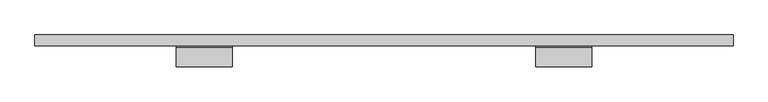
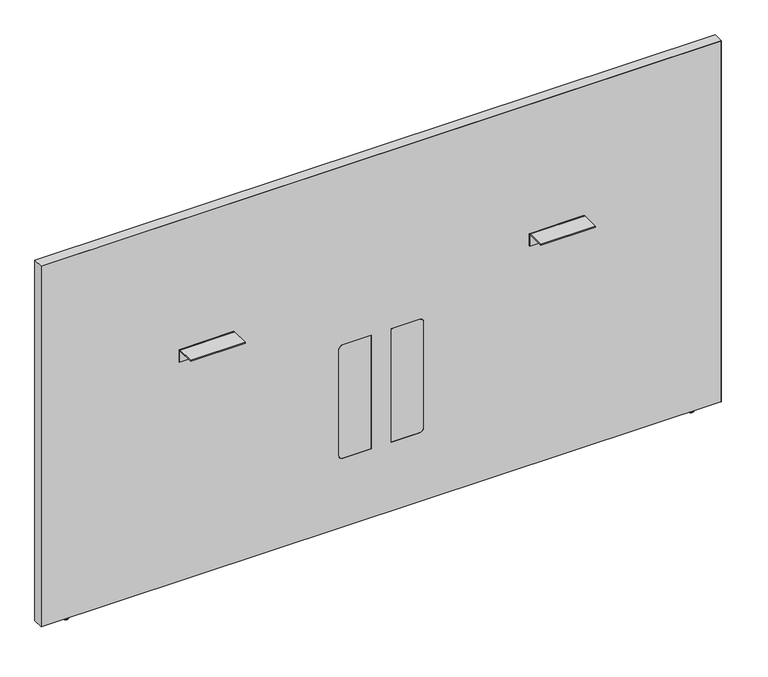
"""IFC4 building model written with IfcOpenShell, lengths in millimetres: furniture geometry, Steelcase - Answer Solution - Boundary Screen - Straight - Spanning : 42H x 75W."""

from ifc_helpers import new_model, si_unit, point, frame, frame_2d, origin, place, context, project, spatial, polyline, circle_curve, ellipse_curve, trimmed, segment, composite_curve, outline, extrude, source, transform, mapped, element, save
from ifc_brep_helpers import plane_surface, cylinder_surface, revolved_surface, advanced_brep


def furniture_27a1686d(model_context):
    return source(origin(), model_context, "Body", "SolidModel", [
        advanced_brep(
        [(-645.4902705, -14.8449166, 9.9059849), (-645.4902705, -5.9309607, 9.9059849), (-645.4902705, -23.7588726, 9.9059849), (-645.4902705, -5.9309607, 2.9673238), (-645.4902705, -23.7588726, 2.9673238), (-645.4902705, -6.8982978, 2.9673238), (-645.4902705, -22.7915354, 2.9673238), (-645.4902705, -6.8982978, 1.6569081), (-645.4902705, -22.7915354, 1.6569081), (-645.4902705, -8.5552059, 0.0), (-645.4902705, -21.1346274, 0.0), (-645.4902705, -14.8449166, 0.0)],
        [
            (0, 1),
            (1, 2, circle_curve(frame((-645.4902705, -14.8449166, 9.9059849), z_axis=(0.0, 0.0, 1.0), x_axis=(0.0, 1.0, 0.0)), 8.913956)),
            (2, 0),
            (2, 1, circle_curve(frame((-645.4902705, -14.8449166, 9.9059849), z_axis=(0.0, 0.0, 1.0), x_axis=(0.0, 1.0, 0.0)), 8.913956)),
            (1, 3),
            (3, 4, circle_curve(frame((-645.4902705, -14.8449166, 2.9673238), z_axis=(0.0, 0.0, 1.0), x_axis=(0.0, 1.0, 0.0)), 8.913956)),
            (4, 2),
            (4, 3, circle_curve(frame((-645.4902705, -14.8449166, 2.9673238), z_axis=(0.0, 0.0, 1.0), x_axis=(0.0, 1.0, 0.0)), 8.913956)),
            (3, 5),
            (5, 6, circle_curve(frame((-645.4902705, -14.8449166, 2.9673238), z_axis=(0.0, 0.0, 1.0), x_axis=(0.0, 1.0, 0.0)), 7.9466188)),
            (6, 4),
            (6, 5, circle_curve(frame((-645.4902705, -14.8449166, 2.9673238), z_axis=(0.0, 0.0, 1.0), x_axis=(0.0, 1.0, 0.0)), 7.9466188)),
            (5, 7),
            (7, 8, circle_curve(frame((-645.4902705, -14.8449166, 1.6569081), z_axis=(0.0, 0.0, 1.0), x_axis=(0.0, 1.0, 0.0)), 7.9466188)),
            (8, 6),
            (8, 7, circle_curve(frame((-645.4902705, -14.8449166, 1.6569081), z_axis=(0.0, 0.0, 1.0), x_axis=(0.0, 1.0, 0.0)), 7.9466188)),
            (7, 9, circle_curve(frame((-645.4902705, -8.5552059, 1.6569081), z_axis=(-1.0, 0.0, 0.0), x_axis=(0.0, 1.0, 0.0)), 1.6569081)),
            (9, 10, circle_curve(frame((-645.4902705, -14.8449166, 0.0), z_axis=(0.0, 0.0, 1.0), x_axis=(0.0, 1.0, 0.0)), 6.2897107)),
            (10, 8, circle_curve(frame((-645.4902705, -21.1346274, 1.6569081), z_axis=(-1.0, 0.0, 0.0), x_axis=(0.0, -1.0, 0.0)), 1.6569081)),
            (10, 9, circle_curve(frame((-645.4902705, -14.8449166, 0.0), z_axis=(0.0, 0.0, 1.0), x_axis=(0.0, 1.0, 0.0)), 6.2897107)),
            (9, 11),
            (11, 10),
        ],
        [
            plane_surface(frame((-645.4902705, -14.8449166, 9.9059849), z_axis=(0.0, 0.0, 1.0), x_axis=(0.0, 1.0, 0.0))),
            cylinder_surface(frame((-645.4902705, -14.8449166, 9.9059849), z_axis=(0.0, 0.0, 1.0), x_axis=(0.0, 1.0, 0.0)), 8.913956),
            plane_surface(frame((-645.4902705, -14.8449166, 2.9673238), z_axis=(0.0, 0.0, -1.0), x_axis=(0.0, 1.0, 0.0))),
            cylinder_surface(frame((-645.4902705, -14.8449166, 9.9059849), z_axis=(0.0, 0.0, 1.0), x_axis=(0.0, 1.0, 0.0)), 7.9466188),
            revolved_surface(trimmed(ellipse_curve(frame((-645.4902705, -8.5552059, 1.6569081), z_axis=(1.0, 0.0, 0.0), x_axis=(0.0, 1.0, 0.0)), 1.6569081, 1.6569081), [point((-645.4902705, -8.5552059, 0.0))], [point((-645.4902705, -6.8982978, 1.6569081))], True, "CARTESIAN"), (-645.4902705, -14.8449166, 9.9059849), (0.0, 0.0, 1.0)),
            plane_surface(frame((-645.4902705, -14.8449166, 0.0), z_axis=(0.0, 0.0, -1.0), x_axis=(0.0, 1.0, 0.0))),
        ],
        [
            (0, [[1, 2, 3]]),
            (0, [[-3, 4, -1]]),
            (1, [[-2, 5, 6, 7]]),
            (1, [[-4, -7, 8, -5]]),
            (2, [[-6, 9, 10, 11]]),
            (2, [[-8, -11, 12, -9]]),
            (3, [[-10, 13, 14, 15]]),
            (3, [[-12, -15, 16, -13]]),
            (4, [[-14, 17, 18, 19]]),
            (4, [[-16, -19, 20, -17]]),
            (5, [[-18, 21, 22]]),
            (5, [[-20, -22, -21]]),
        ],
    ),
        extrude(outline(composite_curve([segment(polyline([(-86.8398151, 696.4680019), (-86.8398151, 698.5), (-34.9450855, 698.5)]), True, "CONTINUOUS"), segment(trimmed(circle_curve(frame_2d((-34.9450855, 693.2447477)), 5.2552523), [point((-34.9450855, 698.5))], [point((-29.6898332, 693.2447477))], False, "CARTESIAN"), True, "CONTINUOUS"), segment(polyline([(-29.6898332, 693.2447477), (-29.6898332, 660.4), (-31.7218162, 660.4), (-31.7218162, 693.0058743)]), True, "CONTINUOUS"), segment(trimmed(circle_curve(frame_2d((-35.1839438, 693.0058743)), 3.4621276), [point((-31.7218162, 693.0058743))], [point((-35.1839438, 696.4680019))], True, "CARTESIAN"), True, "CONTINUOUS"), segment(polyline([(-35.1839438, 696.4680019), (-86.8398151, 696.4680019)]), True, "CONTINUOUS")], self_intersect=False)), frame((644.0282189, 0.0, 0.0), z_axis=(1.0, 0.0, 0.0), x_axis=(0.0, 1.0, 0.0)), (0.0, 0.0, 1.0), 152.4000969),
        extrude(outline(composite_curve([segment(polyline([(-86.8398151, 696.4680019), (-86.8398151, 698.5), (-34.9450855, 698.5)]), True, "CONTINUOUS"), segment(trimmed(circle_curve(frame_2d((-34.9450855, 693.2447477)), 5.2552523), [point((-34.9450855, 698.5))], [point((-29.6898332, 693.2447477))], False, "CARTESIAN"), True, "CONTINUOUS"), segment(polyline([(-29.6898332, 693.2447477), (-29.6898332, 660.4), (-31.7218162, 660.4), (-31.7218162, 693.0058743)]), True, "CONTINUOUS"), segment(trimmed(circle_curve(frame_2d((-35.1839438, 693.0058743)), 3.4621276), [point((-31.7218162, 693.0058743))], [point((-35.1839438, 696.4680019))], True, "CARTESIAN"), True, "CONTINUOUS"), segment(polyline([(-35.1839438, 696.4680019), (-86.8398151, 696.4680019)]), True, "CONTINUOUS")], self_intersect=False)), frame((-336.7884581, 0.0, 0.0), z_axis=(1.0, 0.0, 0.0), x_axis=(0.0, 1.0, 0.0)), (0.0, 0.0, 1.0), 152.4000969),
        advanced_brep(
        [(1105.1286488, -23.7588726, 9.9059849), (1105.1286488, -5.9309607, 9.9059849), (1105.1286488, -14.8449166, 9.9059849), (1105.1286488, -23.7588726, 2.9673238), (1105.1286488, -5.9309607, 2.9673238), (1105.1286488, -22.7915354, 2.9673238), (1105.1286488, -6.8982978, 2.9673238), (1105.1286488, -22.7915354, 1.6569081), (1105.1286488, -6.8982978, 1.6569081), (1105.1286488, -21.1346274, 0.0), (1105.1286488, -8.5552059, 0.0), (1105.1286488, -14.8449166, 0.0)],
        [
            (0, 1, circle_curve(frame((1105.1286488, -14.8449166, 9.9059849), z_axis=(0.0, 0.0, 1.0), x_axis=(0.0, 1.0, 0.0)), 8.913956)),
            (1, 2),
            (2, 0),
            (1, 0, circle_curve(frame((1105.1286488, -14.8449166, 9.9059849), z_axis=(0.0, 0.0, 1.0), x_axis=(0.0, 1.0, 0.0)), 8.913956)),
            (3, 4, circle_curve(frame((1105.1286488, -14.8449166, 2.9673238), z_axis=(0.0, 0.0, 1.0), x_axis=(0.0, 1.0, 0.0)), 8.913956)),
            (4, 1),
            (0, 3),
            (4, 3, circle_curve(frame((1105.1286488, -14.8449166, 2.9673238), z_axis=(0.0, 0.0, 1.0), x_axis=(0.0, 1.0, 0.0)), 8.913956)),
            (5, 6, circle_curve(frame((1105.1286488, -14.8449166, 2.9673238), z_axis=(0.0, 0.0, 1.0), x_axis=(0.0, 1.0, 0.0)), 7.9466188)),
            (6, 4),
            (3, 5),
            (6, 5, circle_curve(frame((1105.1286488, -14.8449166, 2.9673238), z_axis=(0.0, 0.0, 1.0), x_axis=(0.0, 1.0, 0.0)), 7.9466188)),
            (7, 8, circle_curve(frame((1105.1286488, -14.8449166, 1.6569081), z_axis=(0.0, 0.0, 1.0), x_axis=(0.0, 1.0, 0.0)), 7.9466188)),
            (8, 6),
            (5, 7),
            (8, 7, circle_curve(frame((1105.1286488, -14.8449166, 1.6569081), z_axis=(0.0, 0.0, 1.0), x_axis=(0.0, 1.0, 0.0)), 7.9466188)),
            (9, 10, circle_curve(frame((1105.1286488, -14.8449166, 0.0), z_axis=(0.0, 0.0, 1.0), x_axis=(0.0, 1.0, 0.0)), 6.2897107)),
            (10, 8, circle_curve(frame((1105.1286488, -8.5552059, 1.6569081), z_axis=(1.0, 0.0, 0.0), x_axis=(0.0, 1.0, 0.0)), 1.6569081)),
            (7, 9, circle_curve(frame((1105.1286488, -21.1346274, 1.6569081), z_axis=(1.0, 0.0, 0.0), x_axis=(0.0, -1.0, 0.0)), 1.6569081)),
            (10, 9, circle_curve(frame((1105.1286488, -14.8449166, 0.0), z_axis=(0.0, 0.0, 1.0), x_axis=(0.0, 1.0, 0.0)), 6.2897107)),
            (11, 10),
            (9, 11),
        ],
        [
            plane_surface(frame((1105.1286488, -14.8449166, 9.9059849), z_axis=(0.0, 0.0, 1.0), x_axis=(0.0, 1.0, 0.0))),
            cylinder_surface(frame((1105.1286488, -14.8449166, 9.9059849), z_axis=(0.0, 0.0, -1.0), x_axis=(0.0, 1.0, 0.0)), 8.913956),
            plane_surface(frame((1105.1286488, -14.8449166, 2.9673238), z_axis=(0.0, 0.0, -1.0), x_axis=(0.0, 1.0, 0.0))),
            cylinder_surface(frame((1105.1286488, -14.8449166, 9.9059849), z_axis=(0.0, 0.0, -1.0), x_axis=(0.0, 1.0, 0.0)), 7.9466188),
            revolved_surface(trimmed(ellipse_curve(frame((1105.1286488, -8.5552059, 1.6569081), z_axis=(-1.0, 0.0, 0.0), x_axis=(0.0, 1.0, 0.0)), 1.6569081, 1.6569081), [point((1105.1286488, -6.8982978, 1.6569081))], [point((1105.1286488, -8.5552059, 0.0))], True, "CARTESIAN"), (1105.1286488, -14.8449166, 9.9059849), (0.0, 0.0, -1.0)),
            plane_surface(frame((1105.1286488, -14.8449166, 0.0), z_axis=(0.0, 0.0, -1.0), x_axis=(0.0, 1.0, 0.0))),
        ],
        [
            (0, [[1, 2, 3]]),
            (0, [[4, -3, -2]]),
            (1, [[5, 6, -1, 7]]),
            (1, [[8, -7, -4, -6]]),
            (2, [[9, 10, -5, 11]]),
            (2, [[12, -11, -8, -10]]),
            (3, [[13, 14, -9, 15]]),
            (3, [[16, -15, -12, -14]]),
            (4, [[17, 18, -13, 19]]),
            (4, [[20, -19, -16, -18]]),
            (5, [[21, -17, 22]]),
            (5, [[-22, -20, -21]]),
        ],
    ),
        advanced_brep(
        [(1181.2780168, 0.0, 1076.742118), (1181.2780168, 0.0, 9.9059849), (-721.6902221, 0.0, 9.9059849), (-721.6902221, 0.0, 1076.742118), (1181.2780168, -29.6898332, 1076.742118), (-721.6902221, -29.6898332, 1076.742118), (-721.6902221, -29.6898332, 9.9059849), (1181.2780168, -29.6898332, 9.9059849), (337.7883813, -29.6898332, 549.6162029), (347.9483813, -29.6898332, 539.4562029), (347.9483813, -29.6898332, 223.9362137), (337.7883813, -29.6898332, 213.7762137), (258.1344836, -29.6898332, 213.7762137), (258.1344836, -29.6898332, 549.6162029), (121.849997, -29.6898332, 549.6162029), (201.5038947, -29.6898332, 549.6162029), (201.5038947, -29.6898332, 213.7762137), (121.849997, -29.6898332, 213.7762137), (111.689997, -29.6898332, 223.9362137), (111.689997, -29.6898332, 539.4562029), (258.1344836, -29.0550397, 549.6162029), (337.7883813, -29.0550397, 549.6162029), (258.1344836, -29.0550397, 213.7762137), (337.7883813, -29.0550397, 213.7762137), (347.9483813, -29.0550397, 223.9362137), (347.9483813, -29.0550397, 539.4562029), (121.849997, -29.0550397, 549.6162029), (111.689997, -29.0550397, 539.4562029), (111.689997, -29.0550397, 223.9362137), (121.849997, -29.0550397, 213.7762137), (201.5038947, -29.0550397, 213.7762137), (201.5038947, -29.0550397, 549.6162029)],
        [
            (0, 1),
            (1, 2),
            (2, 3),
            (3, 0),
            (4, 5),
            (5, 6),
            (6, 7),
            (7, 4),
            (8, 9, circle_curve(frame((337.7883813, -29.6898332, 539.4562029), z_axis=(0.0, 1.0, 0.0), x_axis=(0.0, 0.0, 1.0)), 10.16)),
            (9, 10),
            (10, 11, circle_curve(frame((337.7883813, -29.6898332, 223.9362137), z_axis=(0.0, 1.0, 0.0), x_axis=(0.0, 0.0, 1.0)), 10.16)),
            (11, 12),
            (12, 13),
            (13, 8),
            (14, 15),
            (15, 16),
            (16, 17),
            (17, 18, circle_curve(frame((121.849997, -29.6898332, 223.9362137), z_axis=(0.0, 1.0, 0.0), x_axis=(0.0, 0.0, 1.0)), 10.16)),
            (18, 19),
            (19, 14, circle_curve(frame((121.849997, -29.6898332, 539.4562029), z_axis=(0.0, 1.0, 0.0), x_axis=(0.0, 0.0, 1.0)), 10.16)),
            (0, 4),
            (7, 1),
            (6, 2),
            (5, 3),
            (13, 20),
            (20, 21),
            (21, 8),
            (12, 22),
            (22, 20),
            (11, 23),
            (23, 22),
            (10, 24),
            (24, 23, circle_curve(frame((337.7883813, -29.0550397, 223.9362137), z_axis=(0.0, 1.0, 0.0), x_axis=(0.0, 0.0, 1.0)), 10.16)),
            (9, 25),
            (25, 24),
            (21, 25, circle_curve(frame((337.7883813, -29.0550397, 539.4562029), z_axis=(0.0, 1.0, 0.0), x_axis=(0.0, 0.0, 1.0)), 10.16)),
            (26, 27, circle_curve(frame((121.849997, -29.0550397, 539.4562029), z_axis=(0.0, -1.0, 0.0), x_axis=(0.0, 0.0, 1.0)), 10.16)),
            (27, 28),
            (28, 29, circle_curve(frame((121.849997, -29.0550397, 223.9362137), z_axis=(0.0, -1.0, 0.0), x_axis=(0.0, 0.0, 1.0)), 10.16)),
            (29, 30),
            (30, 31),
            (31, 26),
            (19, 27),
            (26, 14),
            (18, 28),
            (17, 29),
            (16, 30),
            (15, 31),
        ],
        [
            plane_surface(frame((1181.2780168, 0.0, 1076.742118), z_axis=(0.0, 1.0, 0.0), x_axis=(0.0, 0.0, -1.0))),
            plane_surface(frame((1181.2780168, -29.6898332, 1076.742118), z_axis=(0.0, -1.0, 0.0), x_axis=(0.0, 0.0, 1.0))),
            plane_surface(frame((1181.2780168, 0.0, 1076.742118), z_axis=(1.0, 0.0, 0.0), x_axis=(0.0, -1.0, 0.0))),
            plane_surface(frame((1181.2780168, 0.0, 9.9059849), z_axis=(0.0, 0.0, -1.0), x_axis=(0.0, -1.0, 0.0))),
            plane_surface(frame((-721.6902221, 0.0, 9.9059849), z_axis=(-1.0, 0.0, 0.0), x_axis=(0.0, -1.0, 0.0))),
            plane_surface(frame((-721.6902221, 0.0, 1076.742118), z_axis=(0.0, 0.0, 1.0), x_axis=(0.0, -1.0, 0.0))),
            plane_surface(frame((337.7883813, 0.0, 549.6162029), z_axis=(0.0, 0.0, -1.0), x_axis=(0.0, -1.0, 0.0))),
            plane_surface(frame((258.1344836, 0.0, 549.6162029), z_axis=(1.0, 0.0, 0.0), x_axis=(0.0, -1.0, 0.0))),
            plane_surface(frame((258.1344836, 0.0, 213.7762137), z_axis=(0.0, 0.0, 1.0), x_axis=(0.0, -1.0, 0.0))),
            revolved_surface(polyline([(337.7883813, -29.6898332, 234.0962137), (337.7883813, -29.0550397, 234.0962137)]), (337.7883813, -29.6898332, 223.9362137), (0.0, -1.0, 0.0)),
            plane_surface(frame((347.9483813, 0.0, 223.9362137), z_axis=(-1.0, 0.0, 0.0), x_axis=(0.0, -1.0, 0.0))),
            revolved_surface(polyline([(337.7883813, -29.6898332, 549.6162029), (337.7883813, -29.0550397, 549.6162029)]), (337.7883813, -29.6898332, 539.4562029), (0.0, -1.0, 0.0)),
            plane_surface(frame((347.9483813, -29.0550397, 549.6162029), z_axis=(0.0, -1.0, 0.0), x_axis=(0.0, 0.0, 1.0))),
            revolved_surface(polyline([(121.849997, -29.6898332, 549.6162029), (121.849997, -29.0550397, 549.6162029)]), (121.849997, -29.6898332, 539.4562029), (0.0, -1.0, 0.0)),
            plane_surface(frame((111.689997, 0.0, 539.4562029), z_axis=(1.0, 0.0, 0.0), x_axis=(0.0, -1.0, 0.0))),
            revolved_surface(polyline([(121.849997, -29.6898332, 234.0962137), (121.849997, -29.0550397, 234.0962137)]), (121.849997, -29.6898332, 223.9362137), (0.0, -1.0, 0.0)),
            plane_surface(frame((121.849997, 0.0, 213.7762137), z_axis=(0.0, 0.0, 1.0), x_axis=(0.0, -1.0, 0.0))),
            plane_surface(frame((201.5038947, 0.0, 213.7762137), z_axis=(-1.0, 0.0, 0.0), x_axis=(0.0, -1.0, 0.0))),
            plane_surface(frame((201.5038947, 0.0, 549.6162029), z_axis=(0.0, 0.0, -1.0), x_axis=(0.0, -1.0, 0.0))),
        ],
        [
            (0, [[1, 2, 3, 4]]),
            (1, [[5, 6, 7, 8], [9, 10, 11, 12, 13, 14], [15, 16, 17, 18, 19, 20]]),
            (2, [[-1, 21, -8, 22]]),
            (3, [[-2, -22, -7, 23]]),
            (4, [[-3, -23, -6, 24]]),
            (5, [[-4, -24, -5, -21]]),
            (6, [[-14, 25, 26, 27]]),
            (7, [[-13, 28, 29, -25]]),
            (8, [[-12, 30, 31, -28]]),
            (9, [[-11, 32, 33, -30]]),
            (10, [[-10, 34, 35, -32]]),
            (11, [[-9, -27, 36, -34]]),
            (12, [[-26, -29, -31, -33, -35, -36]]),
            (12, [[37, 38, 39, 40, 41, 42]]),
            (13, [[-20, 43, -37, 44]]),
            (14, [[-19, 45, -38, -43]]),
            (15, [[-18, 46, -39, -45]]),
            (16, [[-17, 47, -40, -46]]),
            (17, [[-16, 48, -41, -47]]),
            (18, [[-15, -44, -42, -48]]),
        ],
    ),
        extrude(outline(composite_curve([segment(polyline([(549.6162029, 337.7883813), (549.6162029, 258.1344836), (213.7762137, 258.1344836), (213.7762137, 337.7883813)]), True, "CONTINUOUS"), segment(trimmed(circle_curve(frame_2d((223.9362137, 337.7883813)), 10.16), [point((213.7762137, 337.7883813))], [point((223.9362137, 347.9483813))], False, "CARTESIAN"), True, "CONTINUOUS"), segment(polyline([(223.9362137, 347.9483813), (539.4562029, 347.9483813)]), True, "CONTINUOUS"), segment(trimmed(circle_curve(frame_2d((539.4562029, 337.7883813)), 10.16), [point((539.4562029, 347.9483813))], [point((549.6162029, 337.7883813))], False, "CARTESIAN"), True, "CONTINUOUS")], self_intersect=False)), frame((0.0, -29.6898332, 0.0), z_axis=(0.0, 1.0, 0.0), x_axis=(0.0, 0.0, 1.0)), (0.0, 0.0, 1.0), 0.6347935),
        extrude(outline(composite_curve([segment(trimmed(circle_curve(frame_2d((539.4562029, 121.849997)), 10.16), [point((549.6162029, 121.849997))], [point((539.4562029, 111.689997))], False, "CARTESIAN"), True, "CONTINUOUS"), segment(polyline([(539.4562029, 111.689997), (223.9362137, 111.689997)]), True, "CONTINUOUS"), segment(trimmed(circle_curve(frame_2d((223.9362137, 121.849997)), 10.16), [point((223.9362137, 111.689997))], [point((213.7762137, 121.849997))], False, "CARTESIAN"), True, "CONTINUOUS"), segment(polyline([(213.7762137, 121.849997), (213.7762137, 201.5038947), (549.6162029, 201.5038947), (549.6162029, 121.849997)]), True, "CONTINUOUS")], self_intersect=False)), frame((0.0, -29.6898332, 0.0), z_axis=(0.0, 1.0, 0.0), x_axis=(0.0, 0.0, 1.0)), (0.0, 0.0, 1.0), 0.6347935),
        extrude(outline(polyline([(1077.722, 1182.3191891), (1077.722, -722.6808109), (9.9059849, -722.6808109), (9.9059849, -721.6902221), (1076.742118, -721.6902221), (1076.742118, 1181.2780168), (9.9059849, 1181.2780168), (9.9059849, 1182.3191891), (1077.722, 1182.3191891)])), frame((0.0, -29.6898332, 0.0), z_axis=(0.0, 1.0, 0.0), x_axis=(0.0, 0.0, 1.0)), (0.0, 0.0, 1.0), 29.6898332),
    ])


if __name__ == "__main__":
    model = new_model("IFC4")
    model_context = context("Model", 3, world=origin())
    ifc_project = project(units=[si_unit("LENGTHUNIT", "METRE", prefix="MILLI")], contexts=[model_context])
    site = spatial("IfcSite", under=ifc_project)
    building = spatial("IfcBuilding", under=site)
    placement = place(None, origin())
    furniture_shape = furniture_27a1686d(model_context)
    element("IfcFurniture", 1, ObjectType="Steelcase - Answer Solution - Boundary Screen - Straight - Spanning : 42H x 75W", at=placement, inside=building, context=model_context, shape_type="MappedRepresentation", body=[
        mapped(furniture_shape, transform((0.0, 0.0, 0.0), x_axis=(1.0, 0.0, 0.0), y_axis=(0.0, 1.0, 0.0), z_axis=(0.0, 0.0, 1.0))),
    ])
    save(model, "model.ifc")
